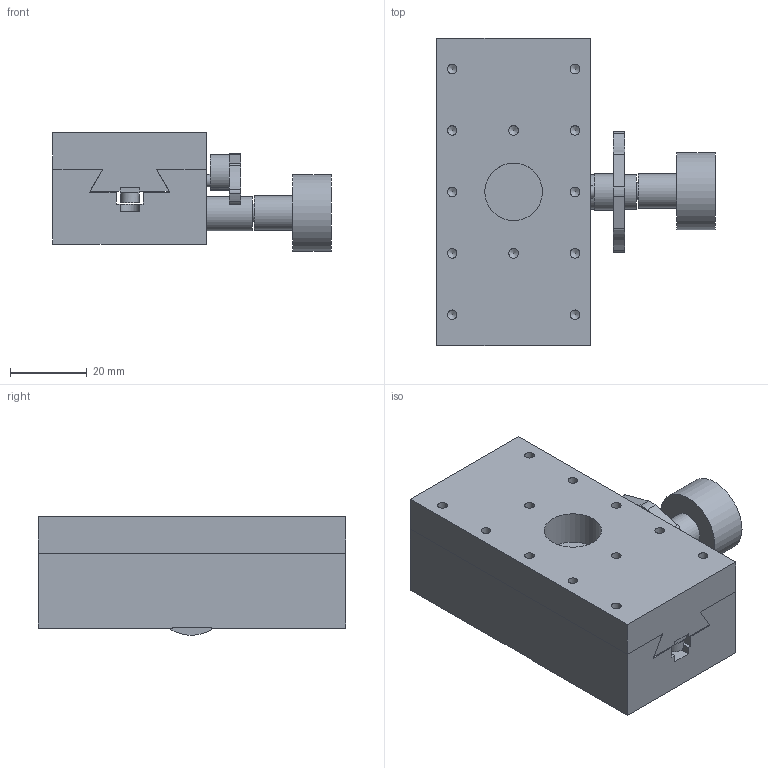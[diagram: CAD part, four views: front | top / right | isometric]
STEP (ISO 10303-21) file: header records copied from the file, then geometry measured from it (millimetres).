
FILE_DESCRIPTION( ( 'STEP AP214' ), '1' );
FILE_NAME( 'C:/Project/B05-11NHM.stp', '2007-05-08T10:30:53', ( ' ' ), ( ' ' ), 'XStep 1.0', ' ', ' ' );
FILE_SCHEMA( ( 'automotive_design' ) );
Length unit declared in the file: millimetre
Products named in the file (3): 1; 2; 3
Bounding box: 72.5 x 80 x 30.89 mm (x, y, z)
Volume: 93035.2 mm3; surface area: 30065.4 mm2
Topology: 3 solids, 3 shells, 142 faces, 374 edges, 248 vertices
Faces by surface type: plane 83, cylinder 47, cone 12
Full cylindrical faces by diameter (mm): 2.5 x12, 3.242 x1, 3.5 x4, 4.5 x2, 4.7 x2, 6 x4, 7.3 x1, 9 x2, 15 x1, 20 x1
Entity records: 5146 total; most frequent: DIRECTION 690, CARTESIAN_POINT 675, ORIENTED_EDGE 602, EDGE_CURVE 301, AXIS2_PLACEMENT_3D 244, VERTEX_POINT 229, EDGE_LOOP 204, LINE 202
